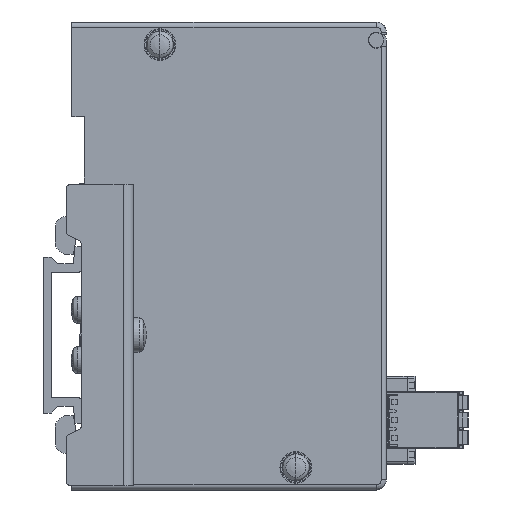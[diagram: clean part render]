
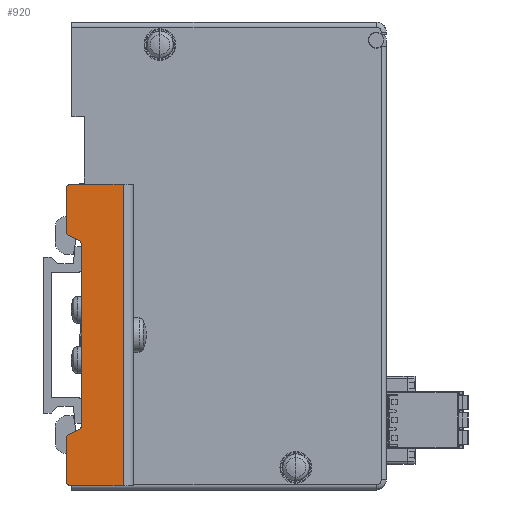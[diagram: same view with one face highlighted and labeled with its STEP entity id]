
A CAD part, left-side view. The second image highlights one B-rep face of the part: STEP entity #920.
In plain terms, the highlighted planar face has unit normal (-1, 0, 0).
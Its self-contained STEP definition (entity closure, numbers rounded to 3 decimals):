
#920=ADVANCED_FACE('',(#8743),#8742,.T.);
#8742=PLANE('',#14777);
#8743=FACE_OUTER_BOUND('',#14778,.T.);
#14774=CARTESIAN_POINT('',(-13.,-3.37,-36.));
#14775=DIRECTION('',(-1.,0.,0.));
#14776=DIRECTION('',(0.,-1.,0.));
#14777=AXIS2_PLACEMENT_3D('',#14774,#14775,#14776);
#14778=EDGE_LOOP('',(#19582,#19583,#19584,#19585,#19586,#19587,#19588,#19589,#19590,#19591,#19592,#19593,#19594,#19595));
#19582=ORIENTED_EDGE('',*,*,#22257,.F.);
#19583=ORIENTED_EDGE('',*,*,#22258,.T.);
#19584=ORIENTED_EDGE('',*,*,#22259,.T.);
#19585=ORIENTED_EDGE('',*,*,#22260,.T.);
#19586=ORIENTED_EDGE('',*,*,#22261,.F.);
#19587=ORIENTED_EDGE('',*,*,#22262,.T.);
#19588=ORIENTED_EDGE('',*,*,#22263,.T.);
#19589=ORIENTED_EDGE('',*,*,#22264,.T.);
#19590=ORIENTED_EDGE('',*,*,#22265,.T.);
#19591=ORIENTED_EDGE('',*,*,#22266,.T.);
#19592=ORIENTED_EDGE('',*,*,#22267,.T.);
#19593=ORIENTED_EDGE('',*,*,#22268,.F.);
#19594=ORIENTED_EDGE('',*,*,#22269,.T.);
#19595=ORIENTED_EDGE('',*,*,#22270,.F.);
#22257=EDGE_CURVE('',#35827,#35828,#35829,.T.);
#22258=EDGE_CURVE('',#35827,#35835,#35836,.T.);
#22259=EDGE_CURVE('',#35835,#35842,#35843,.T.);
#22260=EDGE_CURVE('',#35842,#35849,#35850,.T.);
#22261=EDGE_CURVE('',#35856,#35849,#35857,.T.);
#22262=EDGE_CURVE('',#35856,#35863,#35864,.T.);
#22263=EDGE_CURVE('',#35863,#35870,#35871,.T.);
#22264=EDGE_CURVE('',#35870,#35877,#35878,.T.);
#22265=EDGE_CURVE('',#35877,#35884,#35885,.T.);
#22266=EDGE_CURVE('',#35884,#35891,#35892,.T.);
#22267=EDGE_CURVE('',#35891,#35898,#35899,.T.);
#22268=EDGE_CURVE('',#35905,#35898,#35906,.T.);
#22269=EDGE_CURVE('',#35905,#35912,#35913,.T.);
#22270=EDGE_CURVE('',#35828,#35912,#35919,.T.);
#35827=VERTEX_POINT('',#45832);
#35828=VERTEX_POINT('',#45833);
#35829=LINE('',#45834,#45835);
#35835=VERTEX_POINT('',#45837);
#35836=CIRCLE('',#45841,1.);
#35842=VERTEX_POINT('',#45842);
#35843=LINE('',#45843,#45844);
#35849=VERTEX_POINT('',#45846);
#35850=CIRCLE('',#45850,1.);
#35856=VERTEX_POINT('',#45851);
#35857=LINE('',#45852,#45853);
#35863=VERTEX_POINT('',#45855);
#35864=LINE('',#45856,#45857);
#35870=VERTEX_POINT('',#45859);
#35871=LINE('',#45860,#45861);
#35877=VERTEX_POINT('',#45863);
#35878=CIRCLE('',#45867,1.);
#35884=VERTEX_POINT('',#45868);
#35885=LINE('',#45869,#45870);
#35891=VERTEX_POINT('',#45872);
#35892=CIRCLE('',#45876,1.);
#35898=VERTEX_POINT('',#45877);
#35899=LINE('',#45878,#45879);
#35905=VERTEX_POINT('',#45881);
#35906=CIRCLE('',#45885,1.);
#35912=VERTEX_POINT('',#45886);
#35913=LINE('',#45887,#45888);
#35919=CIRCLE('',#45893,1.);
#45832=CARTESIAN_POINT('',(-13.,-5.077,-19.73));
#45833=CARTESIAN_POINT('',(-13.,-6.923,-18.869));
#45834=CARTESIAN_POINT('',(-13.,-5.077,-19.73));
#45835=VECTOR('',#45836,2.036);
#45836=DIRECTION('',(0.,-0.906,0.423));
#45837=CARTESIAN_POINT('',(-13.,-4.5,-20.636));
#45838=CARTESIAN_POINT('',(-13.,-5.5,-20.636));
#45839=DIRECTION('',(-1.,0.,0.));
#45840=DIRECTION('',(0.,0.,1.));
#45841=AXIS2_PLACEMENT_3D('',#45838,#45839,#45840);
#45842=CARTESIAN_POINT('',(-13.,-4.5,-29.));
#45843=CARTESIAN_POINT('',(-13.,-4.5,-20.636));
#45844=VECTOR('',#45845,8.364);
#45845=DIRECTION('',(0.,0.,-1.));
#45846=CARTESIAN_POINT('',(-13.,-5.5,-30.));
#45847=CARTESIAN_POINT('',(-13.,-5.5,-29.));
#45848=DIRECTION('',(-1.,0.,0.));
#45849=DIRECTION('',(0.,0.,1.));
#45850=AXIS2_PLACEMENT_3D('',#45847,#45848,#45849);
#45851=CARTESIAN_POINT('',(-13.,-15.8,-30.));
#45852=CARTESIAN_POINT('',(-13.,-15.8,-30.));
#45853=VECTOR('',#45854,10.3);
#45854=DIRECTION('',(0.,1.,0.));
#45855=CARTESIAN_POINT('',(-13.,-15.8,30.));
#45856=CARTESIAN_POINT('',(-13.,-15.8,-30.));
#45857=VECTOR('',#45858,60.);
#45858=DIRECTION('',(0.,0.,1.));
#45859=CARTESIAN_POINT('',(-13.,-5.5,30.));
#45860=CARTESIAN_POINT('',(-13.,-15.8,30.));
#45861=VECTOR('',#45862,10.3);
#45862=DIRECTION('',(0.,1.,0.));
#45863=CARTESIAN_POINT('',(-13.,-4.5,29.));
#45864=CARTESIAN_POINT('',(-13.,-5.5,29.));
#45865=DIRECTION('',(-1.,0.,0.));
#45866=DIRECTION('',(0.,0.,1.));
#45867=AXIS2_PLACEMENT_3D('',#45864,#45865,#45866);
#45868=CARTESIAN_POINT('',(-13.,-4.5,20.636));
#45869=CARTESIAN_POINT('',(-13.,-4.5,29.));
#45870=VECTOR('',#45871,8.364);
#45871=DIRECTION('',(0.,0.,-1.));
#45872=CARTESIAN_POINT('',(-13.,-5.077,19.73));
#45873=CARTESIAN_POINT('',(-13.,-5.5,20.636));
#45874=DIRECTION('',(-1.,0.,0.));
#45875=DIRECTION('',(0.,0.,1.));
#45876=AXIS2_PLACEMENT_3D('',#45873,#45874,#45875);
#45877=CARTESIAN_POINT('',(-13.,-6.923,18.869));
#45878=CARTESIAN_POINT('',(-13.,-5.077,19.73));
#45879=VECTOR('',#45880,2.036);
#45880=DIRECTION('',(0.,-0.906,-0.423));
#45881=CARTESIAN_POINT('',(-13.,-7.5,17.963));
#45882=CARTESIAN_POINT('',(-13.,-6.5,17.963));
#45883=DIRECTION('',(-1.,0.,0.));
#45884=DIRECTION('',(0.,0.,1.));
#45885=AXIS2_PLACEMENT_3D('',#45882,#45883,#45884);
#45886=CARTESIAN_POINT('',(-13.,-7.5,-17.963));
#45887=CARTESIAN_POINT('',(-13.,-7.5,17.963));
#45888=VECTOR('',#45889,35.926);
#45889=DIRECTION('',(0.,0.,-1.));
#45890=CARTESIAN_POINT('',(-13.,-6.5,-17.963));
#45891=DIRECTION('',(-1.,0.,0.));
#45892=DIRECTION('',(0.,0.,1.));
#45893=AXIS2_PLACEMENT_3D('',#45890,#45891,#45892);
